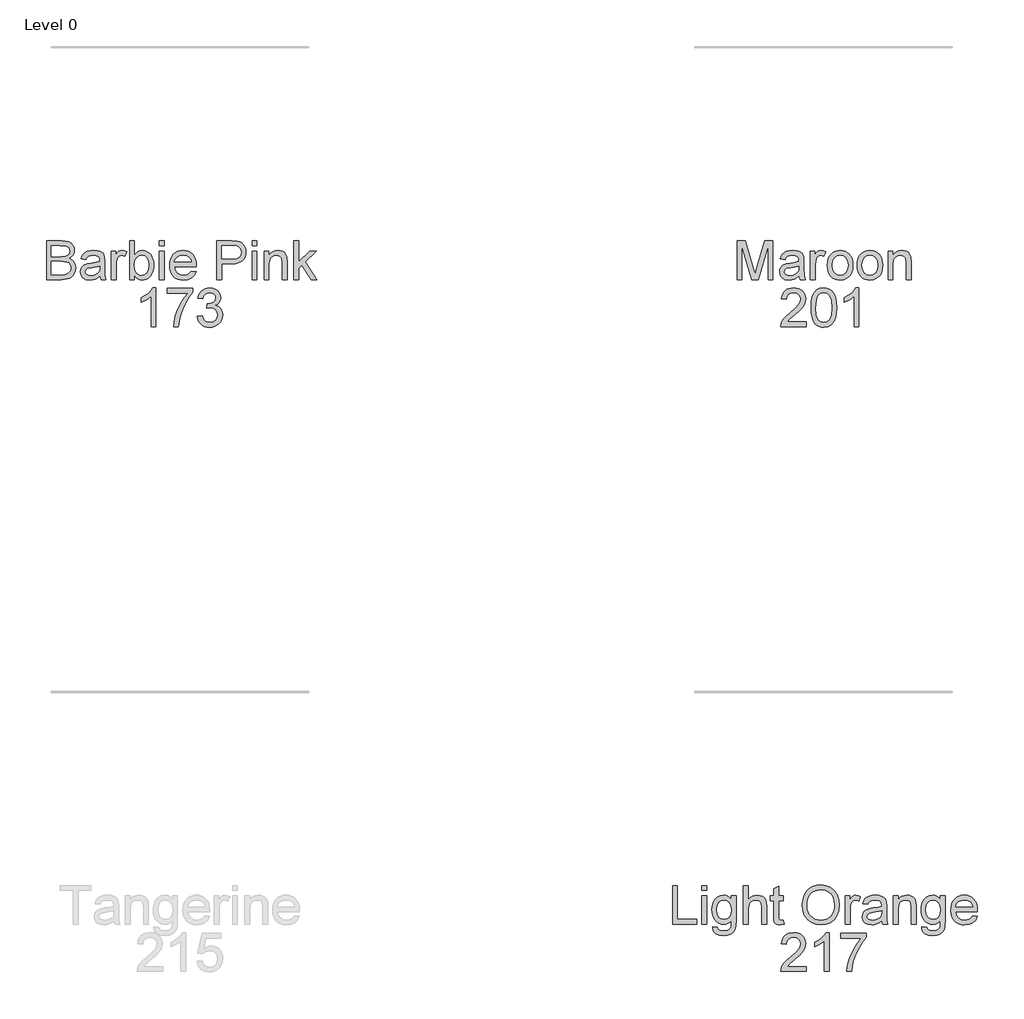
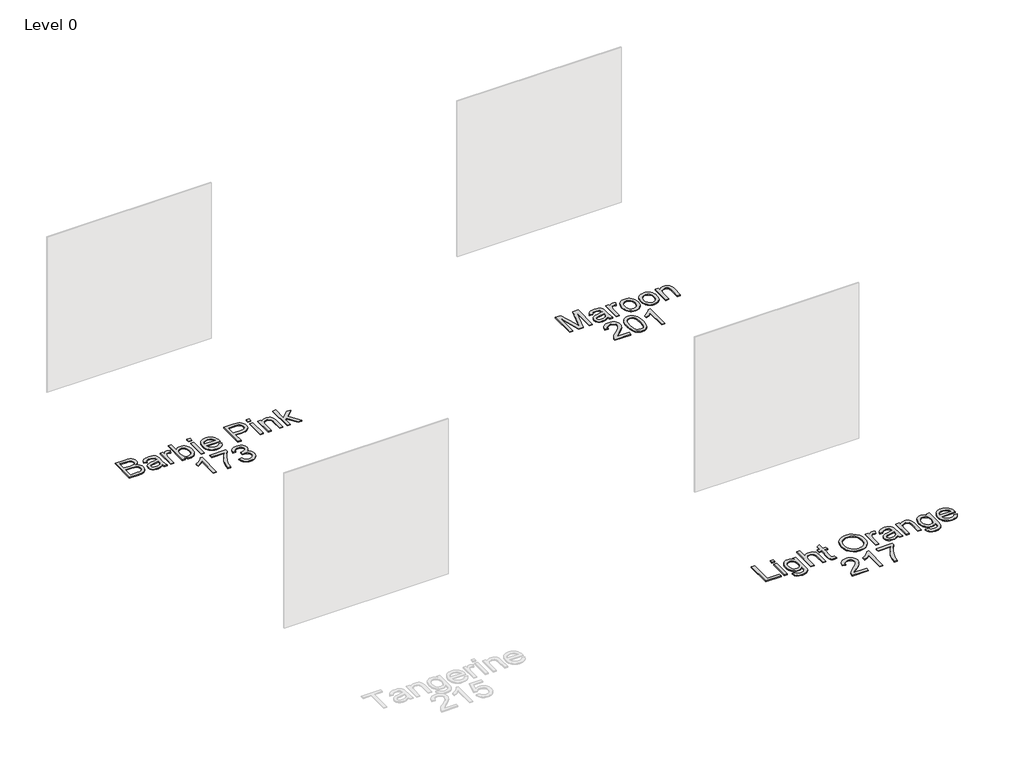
# One storey, part 11 of 15: 3 proxies.
"""IFC4 building model written with IfcOpenShell, lengths in millimetres."""

from ifc_helpers import new_model, si_unit, origin, origin_with_axes, place, context, project, spatial, polyline, outline, extrude, element, save

model = new_model("IFC4")

# Units and contexts
model_context = context("Model", 3, world=origin())
ifc_project = project(units=[si_unit("LENGTHUNIT", "METRE", prefix="MILLI")], contexts=[model_context])

# Site, building, storey
site = spatial("IfcSite", under=ifc_project)
building = spatial("IfcBuilding", under=site)
storey = spatial("IfcBuildingStorey", under=building, Name="Level 0", Elevation=0.0)

# Proxies
placement = place(None, origin())
element("IfcBuildingElementProxy", 1, Name="300mm Arial", ObjectType="300mm Arial", at=placement, inside=storey, context=model_context, shape_type="SweptSolid", body=[
    extrude(outline(polyline([(-486.6137547, -17002.860494), (-486.6137547, -16701.4915635), (-371.613843, -16701.4915635), (-339.9851885, -16703.7080526), (-315.2911096, -16710.3575196), (-296.3635809, -16721.6055116), (-282.0345772, -16737.6175755), (-273.0122713, -16756.4531336), (-270.004836, -16776.1716086), (-272.5340247, -16794.317388), (-280.1215908, -16811.3779155), (-292.8227167, -16826.3047274), (-310.6925846, -16838.0493601), (-289.3462319, -16849.1961846), (-273.5732913, -16866.1555446), (-263.8336155, -16887.8054), (-260.5870569, -16913.0237108), (-262.8035459, -16934.0389697), (-269.453013, -16953.5275184), (-279.3766298, -16970.1006023), (-291.4155681, -16982.3694669), (-306.158439, -16991.253817), (-324.1938539, -16997.6733578), (-372.4967598, -17002.860494), (-486.6137547, -17002.860494)]), holes=[polyline([(-448.9426384, -16823.9226915), (-380.1487053, -16823.9226915), (-339.9759914, -16820.68533), (-325.9137022, -16815.1027207), (-315.8061444, -16806.7426024), (-309.7085003, -16795.7337336), (-307.6759523, -16782.2048733), (-309.5705445, -16769.071486), (-315.2543214, -16757.630356), (-324.4697654, -16748.7000206), (-336.9593591, -16743.0990172), (-385.3726297, -16739.1626798), (-448.9426384, -16739.1626798), (-448.9426384, -16823.9226915)]), polyline([(-448.9426384, -16965.1893777), (-371.6874194, -16965.1893777), (-343.7283878, -16963.7178497), (-320.0735755, -16955.5140812), (-304.4018025, -16938.7754504), (-299.7940805, -16926.9480443), (-298.2581732, -16913.3915928), (-300.060795, -16897.6462434), (-305.4686603, -16884.1081859), (-314.9140305, -16873.5223815), (-328.829167, -16866.6337912), (-348.5384449, -16862.8538037), (-375.3662394, -16861.5938078), (-448.9426384, -16861.5938078), (-448.9426384, -16965.1893777)])]), origin_with_axes(), (0.0, 0.0, 1.0), 10.0),
    extrude(outline(polyline([(-72.2314754, -16974.6071568), (-90.230102, -16990.0398064), (-108.7621575, -17000.1381672), (-128.2507062, -17005.7115794), (-149.1188124, -17007.5693835), (-180.6003141, -17003.0996173), (-203.822865, -16989.6903186), (-218.1426717, -16969.3280501), (-222.9159406, -16943.9993748), (-221.1133188, -16928.3827841), (-215.7054535, -16914.2009331), (-207.3637292, -16902.0608273), (-196.7595307, -16892.5694718), (-170.3823917, -16880.2086368), (-137.7880469, -16874.5432541), (-99.270802, -16868.5835657), (-72.4522046, -16861.5938078), (-72.2314754, -16853.2060983), (-74.8250434, -16836.3938912), (-82.6057476, -16825.3942195), (-100.006566, -16817.2272392), (-124.2499895, -16814.5049125), (-146.6907912, -16816.3167313), (-162.3625642, -16821.7521878), (-173.0495361, -16831.8045633), (-180.5359347, -16847.4671392), (-218.207051, -16842.7582497), (-211.6679486, -16822.156858), (-201.9098787, -16805.9700502), (-188.0223333, -16793.590821), (-169.0948047, -16784.4121652), (-145.9458301, -16778.7283884), (-119.3939471, -16776.8337961), (-93.927316, -16778.5076592), (-73.7397915, -16783.5292485), (-58.518674, -16791.0800264), (-47.9512637, -16800.3414556), (-40.9431117, -16811.7917827), (-36.399769, -16825.9092543), (-34.5603591, -16858.8714811), (-34.5603591, -16905.7396473), (-32.6473727, -16971.1858542), (-25.14258, -17002.860494), (-62.8136963, -17002.860494), (-72.2314754, -16974.6071568)]), holes=[polyline([(-72.2314754, -16899.2649241), (-133.005581, -16910.8164188), (-165.4159847, -16916.9232599), (-180.0944763, -16926.8560738), (-185.2448243, -16941.3506244), (-182.4397241, -16952.5526311), (-174.0244234, -16961.7312869), (-160.1828634, -16967.8565221), (-141.0989849, -16969.8982672), (-120.8654751, -16967.64499), (-102.9864102, -16960.8851583), (-88.4918595, -16950.9247533), (-78.4118929, -16939.069756), (-73.9421266, -16926.8560738), (-72.4522046, -16909.933502), (-72.2314754, -16899.2649241)])]), origin_with_axes(), (0.0, 0.0, 1.0), 10.0),
    extrude(outline(polyline([(17.2374259, -17002.860494), (17.2374259, -16781.5426857), (50.1996526, -16781.5426857), (50.1996526, -16814.2841833), (62.3765467, -16795.3014723), (73.5969475, -16784.1178596), (84.8541366, -16778.654812), (97.1413952, -16776.8337961), (115.903377, -16779.7400639), (134.9596643, -16788.4588672), (122.3781001, -16822.2304343), (109.1343483, -16816.4362929), (95.8905964, -16814.5049125), (84.6426044, -16816.3627165), (74.5902289, -16821.9361288), (66.4692339, -16830.8020848), (61.0153833, -16842.5375205), (56.4352525, -16863.5803706), (54.9085422, -16886.5362071), (54.9085422, -17002.860494), (17.2374259, -17002.860494)])), origin_with_axes(), (0.0, 0.0, 1.0), 10.0),
    extrude(outline(polyline([(196.1752283, -17002.860494), (158.504112, -17002.860494), (158.504112, -16701.4915635), (196.1752283, -16701.4915635), (196.1752283, -16813.2541137), (208.5636545, -16797.3202248), (222.5523674, -16785.9388755), (238.1413669, -16779.110066), (255.3306531, -16776.8337961), (274.7364284, -16778.8847383), (293.0753459, -16785.0375646), (309.2989418, -16794.9059992), (322.3587527, -16808.1037657), (332.5950692, -16824.5021057), (340.3481822, -16843.9722603), (345.2318157, -16865.7048891), (346.8596935, -16888.8906519), (345.1743342, -16915.64487), (340.118256, -16939.1801206), (331.691459, -16959.4964038), (319.8939433, -16976.5937195), (305.7327857, -16990.1455725), (290.2150633, -16999.8254675), (273.3407761, -17005.6334045), (255.109924, -17007.5693835), (237.3550192, -17005.0723845), (221.6142683, -16997.5813874), (207.8876713, -16985.0963921), (196.1752283, -16967.6173988), (196.1752283, -17002.860494)]), holes=[polyline([(196.1752283, -16890.6564855), (198.7504023, -16922.0736078), (206.4759242, -16943.3371872), (215.6039962, -16954.9576597), (226.2127932, -16963.2579972), (238.3023153, -16968.2381997), (251.8725624, -16969.8982672), (273.6143883, -16965.0054367), (292.1924291, -16950.3269451), (304.9395402, -16925.9547629), (309.1885772, -16891.9808606), (305.1142841, -16857.5103177), (292.8914049, -16833.414047), (274.8927782, -16819.2321961), (253.4912432, -16814.5049125), (231.7494173, -16819.397743), (213.1713765, -16834.0762346), (200.4242654, -16858.0069584), (196.1752283, -16890.6564855)])]), origin_with_axes(), (0.0, 0.0, 1.0), 10.0),
    extrude(outline(polyline([(389.2396994, -16739.1626798), (389.2396994, -16701.4915635), (426.9108157, -16701.4915635), (426.9108157, -16739.1626798), (389.2396994, -16739.1626798)])), origin_with_axes(), (0.0, 0.0, 1.0), 10.0),
    extrude(outline(polyline([(389.2396994, -17002.860494), (389.2396994, -16781.5426857), (426.9108157, -16781.5426857), (426.9108157, -17002.860494), (389.2396994, -17002.860494)])), origin_with_axes(), (0.0, 0.0, 1.0), 10.0),
    extrude(outline(polyline([(638.3693865, -16936.9360404), (675.3047388, -16941.64493), (661.9966077, -16969.4752029), (640.7606195, -16990.2789297), (612.0750209, -17003.2467701), (576.4180585, -17007.5693835), (553.0437563, -17005.7046817), (532.2170368, -17000.1105761), (513.9379002, -16990.7870668), (498.2063464, -16977.7341537), (485.5558043, -16961.3151204), (476.5197027, -16941.8932503), (471.0980418, -16919.4685435), (469.2908215, -16894.0409998), (471.1164359, -16867.7512327), (476.5932791, -16844.5792656), (485.7213512, -16824.5250983), (498.500652, -16807.5887309), (514.1908191, -16794.133447), (532.0514899, -16784.5225298), (552.0826646, -16778.7559796), (574.284343, -16776.8337961), (595.7709507, -16778.751381), (615.2020179, -16784.5041357), (632.5775444, -16794.0920602), (647.8975302, -16807.5151545), (660.4032188, -16824.4147337), (669.3358535, -16844.4321128), (674.6954343, -16867.5672917), (676.4819612, -16893.8202706), (676.261232, -16903.9738137), (506.9619378, -16903.9738137), (513.4826462, -16932.1719686), (528.6301874, -16952.902119), (550.4915749, -16965.6492302), (577.1538225, -16969.8982672), (597.2033913, -16967.9300985), (614.0891748, -16962.0255925), (627.8111733, -16951.8168672), (638.3693865, -16936.9360404)]), holes=[polyline([(506.9619378, -16866.3026974), (638.8108449, -16866.3026974), (633.7156793, -16846.4002814), (623.7276831, -16832.1632482), (601.765128, -16818.9194964), (574.1371902, -16814.5049125), (548.7441355, -16818.0273826), (527.7472706, -16828.5947929), (513.1515524, -16845.0667092), (506.9619378, -16866.3026974)])]), origin_with_axes(), (0.0, 0.0, 1.0), 10.0),
    extrude(outline(polyline([(836.5842055, -17002.860494), (836.5842055, -16701.4915635), (948.2731793, -16701.4915635), (993.3019355, -16704.3610431), (1013.3790954, -16709.7229232), (1029.906194, -16718.4509235), (1043.2143252, -16730.9405172), (1053.6345827, -16747.5871775), (1060.3668232, -16767.222879), (1062.6109034, -16788.6795964), (1061.0956894, -16807.1794622), (1056.5500475, -16824.198603), (1048.9739777, -16839.7370188), (1038.3674799, -16853.7947095), (1023.8062507, -16865.4473717), (1004.3659865, -16873.7707019), (980.0466873, -16878.7647), (950.8483532, -16880.429366), (874.2553218, -16880.429366), (874.2553218, -17002.860494), (836.5842055, -17002.860494)]), holes=[polyline([(874.2553218, -16842.7582497), (953.0556452, -16842.7582497), (986.4593304, -16839.3001589), (1008.5322501, -16828.9258867), (1020.8379028, -16812.2792264), (1024.9397871, -16790.0039716), (1022.5209629, -16773.0813998), (1015.2644906, -16758.8075784), (1004.0716809, -16748.0654241), (989.8438447, -16741.7378538), (952.1727284, -16739.1626798), (874.2553218, -16739.1626798), (874.2553218, -16842.7582497)])]), origin_with_axes(), (0.0, 0.0, 1.0), 10.0),
    extrude(outline(polyline([(1109.6997987, -16739.1626798), (1109.6997987, -16701.4915635), (1147.3709151, -16701.4915635), (1147.3709151, -16739.1626798), (1109.6997987, -16739.1626798)])), origin_with_axes(), (0.0, 0.0, 1.0), 10.0),
    extrude(outline(polyline([(1109.6997987, -17002.860494), (1109.6997987, -16781.5426857), (1147.3709151, -16781.5426857), (1147.3709151, -17002.860494), (1109.6997987, -17002.860494)])), origin_with_axes(), (0.0, 0.0, 1.0), 10.0),
    extrude(outline(polyline([(1203.8775895, -17002.860494), (1203.8775895, -16781.5426857), (1241.5487058, -16781.5426857), (1241.5487058, -16812.4447733), (1254.6361078, -16796.8649708), (1270.353866, -16785.7365404), (1288.7019805, -16779.0594822), (1309.6804513, -16776.8337961), (1328.249295, -16778.6272209), (1345.2546403, -16784.0074951), (1359.4364912, -16792.303234), (1369.5348519, -16802.8430532), (1380.8288292, -16830.5445674), (1382.815392, -16866.964885), (1382.815392, -17002.860494), (1345.1442757, -17002.860494), (1345.1442757, -16872.0416565), (1340.8032681, -16838.7115477), (1334.7975945, -16828.7879309), (1325.4625889, -16821.0900002), (1313.497227, -16816.1511844), (1299.6004847, -16814.5049125), (1277.536762, -16818.2021265), (1258.728795, -16829.2937687), (1251.212506, -16838.3482643), (1245.8437281, -16850.7228949), (1241.5487058, -16885.4325611), (1241.5487058, -17002.860494), (1203.8775895, -17002.860494)])), origin_with_axes(), (0.0, 0.0, 1.0), 10.0),
    extrude(outline(polyline([(1434.6131769, -17002.860494), (1434.6131769, -16701.4915635), (1472.2842932, -16701.4915635), (1472.2842932, -16863.4332178), (1556.7499993, -16781.5426857), (1608.8420898, -16781.5426857), (1523.3463141, -16864.4632874), (1613.5509793, -17002.860494), (1569.5522927, -17002.860494), (1496.3437757, -16890.6564855), (1472.2842932, -16913.9802039), (1472.2842932, -17002.860494), (1434.6131769, -17002.860494)])), origin_with_axes(), (0.0, 0.0, 1.0), 10.0),
    extrude(outline(polyline([(363.3408069, -17368.7849475), (325.6696906, -17368.7849475), (325.6696906, -17133.9290818), (289.9851371, -17159.3497277), (250.327458, -17178.3692268), (250.327458, -17142.7582497), (279.9143675, -17126.6634124), (305.5465455, -17107.5151545), (325.7524641, -17087.1528861), (339.0605952, -17067.4160171), (363.3408069, -17067.4160171), (363.3408069, -17368.7849475)])), origin_with_axes(), (0.0, 0.0, 1.0), 10.0),
    extrude(outline(polyline([(452.8097082, -17109.7960229), (452.8097082, -17072.1249066), (650.5830688, -17072.1249066), (650.5830688, -17102.5855358), (622.3941109, -17138.2608923), (594.4810645, -17183.6299393), (569.860562, -17234.5540045), (551.5492357, -17286.8944154), (542.572915, -17326.0554538), (537.5697198, -17368.7849475), (499.8986035, -17368.7849475), (503.9728966, -17329.9550029), (514.8714007, -17283.8042066), (532.2998103, -17234.8850983), (555.9638196, -17187.7502177), (583.5917574, -17145.1402856), (612.9119525, -17109.7960229), (452.8097082, -17109.7960229)])), origin_with_axes(), (0.0, 0.0, 1.0), 10.0),
    extrude(outline(polyline([(683.5452955, -17288.7338254), (721.2164118, -17284.0249358), (729.6501066, -17307.6981422), (742.0017446, -17323.6826149), (758.8783311, -17332.7876943), (780.8868715, -17335.8227207), (806.7121875, -17331.6472601), (826.6513917, -17319.1208782), (839.3985028, -17300.4324728), (843.6475398, -17277.7709419), (839.435291, -17256.2590422), (826.7985445, -17238.8122386), (807.6686807, -17227.2515469), (783.9770802, -17223.397983), (757.563153, -17227.5182614), (761.7570077, -17189.8471451), (767.7902724, -17190.2886035), (790.3598328, -17187.5846708), (810.5381603, -17179.4728728), (824.7751935, -17165.7508744), (829.5208712, -17146.2163404), (826.0811746, -17129.9467592), (815.7620846, -17116.7489926), (800.0167352, -17108.0025982), (780.2982603, -17105.0871334), (760.5429971, -17108.0301893), (744.3929775, -17116.8593572), (732.6023596, -17131.574637), (725.9253014, -17152.1760288), (688.2541851, -17147.4671392), (699.3458272, -17113.6403898), (719.0826963, -17088.3852908), (746.0852347, -17072.6583355), (778.9738851, -17067.4160171), (802.6562885, -17070.0003881), (824.4073115, -17077.7535011), (842.7462289, -17089.9855775), (856.1923159, -17106.0068384), (864.4420696, -17124.4653175), (867.1919875, -17144.0090485), (864.5800254, -17162.2192072), (856.7441389, -17178.7371088), (843.7946926, -17192.8085951), (825.8420513, -17203.6795081), (849.4232872, -17213.2076518), (866.8976819, -17229.4312477), (877.7134126, -17251.4673793), (881.3186561, -17278.4331295), (879.5160344, -17297.5445992), (874.108169, -17315.1477526), (865.0950602, -17331.2425899), (852.4767077, -17345.829111), (837.1038388, -17357.9324287), (819.8271806, -17366.5776555), (800.6467331, -17371.7647917), (779.5624963, -17373.4938371), (760.5062089, -17372.0177105), (743.1421788, -17367.589331), (727.4704058, -17360.2086985), (713.4908899, -17349.875813), (701.7692499, -17337.1976797), (692.8711041, -17322.781304), (686.7964527, -17306.6266859), (683.5452955, -17288.7338254)])), origin_with_axes(), (0.0, 0.0, 1.0), 10.0),
])
element("IfcBuildingElementProxy", 2, Name="300mm Arial", ObjectType="300mm Arial", at=placement, inside=storey, context=model_context, shape_type="SweptSolid", body=[
    extrude(outline(polyline([(4878.3251845, -17002.860494), (4878.3251845, -16701.4915635), (4943.145992, -16701.4915635), (5004.8030144, -16913.9066275), (5017.2374259, -16958.2731962), (5030.7019069, -16910.2278076), (5091.3288597, -16701.4915635), (5156.1496672, -16701.4915635), (5156.1496672, -17002.860494), (5118.4785509, -17002.860494), (5118.4785509, -16739.1626798), (5042.7684363, -17002.860494), (4991.7064154, -17002.860494), (4915.9963008, -16739.1626798), (4915.9963008, -17002.860494), (4878.3251845, -17002.860494)])), origin_with_axes(), (0.0, 0.0, 1.0), 10.0),
    extrude(outline(polyline([(5358.6319174, -16974.6071568), (5340.6332908, -16990.0398064), (5322.1012353, -17000.1381672), (5302.6126866, -17005.7115794), (5281.7445804, -17007.5693835), (5250.2630787, -17003.0996173), (5227.0405277, -16989.6903186), (5212.7207211, -16969.3280501), (5207.9474522, -16943.9993748), (5209.7500739, -16928.3827841), (5215.1579393, -16914.2009331), (5223.4996635, -16902.0608273), (5234.103862, -16892.5694718), (5260.4810011, -16880.2086368), (5293.0753459, -16874.5432541), (5331.5925907, -16868.5835657), (5358.4111882, -16861.5938078), (5358.6319174, -16853.2060983), (5356.0383493, -16836.3938912), (5348.2576451, -16825.3942195), (5330.8568268, -16817.2272392), (5306.6134033, -16814.5049125), (5284.1726016, -16816.3167313), (5268.5008286, -16821.7521878), (5257.8138566, -16831.8045633), (5250.327458, -16847.4671392), (5212.6563417, -16842.7582497), (5219.1954442, -16822.156858), (5228.9535141, -16805.9700502), (5242.8410594, -16793.590821), (5261.7685881, -16784.4121652), (5284.9175626, -16778.7283884), (5311.4694456, -16776.8337961), (5336.9360767, -16778.5076592), (5357.1236012, -16783.5292485), (5372.3447188, -16791.0800264), (5382.9121291, -16800.3414556), (5389.9202811, -16811.7917827), (5394.4636237, -16825.9092543), (5396.3030337, -16858.8714811), (5396.3030337, -16905.7396473), (5398.2160201, -16971.1858542), (5405.7208128, -17002.860494), (5368.0496965, -17002.860494), (5358.6319174, -16974.6071568)]), holes=[polyline([(5358.6319174, -16899.2649241), (5297.8578118, -16910.8164188), (5265.447408, -16916.9232599), (5250.7689164, -16926.8560738), (5245.6185685, -16941.3506244), (5248.4236687, -16952.5526311), (5256.8389693, -16961.7312869), (5270.6805294, -16967.8565221), (5289.7644079, -16969.8982672), (5309.9979176, -16967.64499), (5327.8769826, -16960.8851583), (5342.3715332, -16950.9247533), (5352.4514999, -16939.069756), (5356.9212661, -16926.8560738), (5358.4111882, -16909.933502), (5358.6319174, -16899.2649241)])]), origin_with_axes(), (0.0, 0.0, 1.0), 10.0),
    extrude(outline(polyline([(5448.1008186, -17002.860494), (5448.1008186, -16781.5426857), (5481.0630454, -16781.5426857), (5481.0630454, -16814.2841833), (5493.2399394, -16795.3014723), (5504.4603403, -16784.1178596), (5515.7175293, -16778.654812), (5528.004788, -16776.8337961), (5546.7667697, -16779.7400639), (5565.8230571, -16788.4588672), (5553.2414928, -16822.2304343), (5539.997741, -16816.4362929), (5526.7539892, -16814.5049125), (5515.5059972, -16816.3627165), (5505.4536217, -16821.9361288), (5497.3326266, -16830.8020848), (5491.878776, -16842.5375205), (5487.2986452, -16863.5803706), (5485.7719349, -16886.5362071), (5485.7719349, -17002.860494), (5448.1008186, -17002.860494)])), origin_with_axes(), (0.0, 0.0, 1.0), 10.0),
    extrude(outline(polyline([(5579.9497257, -16892.2015898), (5581.9868722, -16863.5389839), (5588.0983119, -16838.8403064), (5598.2840446, -16818.1055575), (5612.5440705, -16801.334737), (5626.9006653, -16790.6155754), (5642.7471823, -16782.9590314), (5660.0836213, -16778.3651049), (5678.9099824, -16776.8337961), (5699.6930159, -16778.698498), (5718.484888, -16784.2926036), (5735.2855989, -16793.6161129), (5750.0951485, -16806.669026), (5762.1823713, -16823.0098843), (5770.8161018, -16842.1972296), (5775.9963402, -16864.2310619), (5777.7230863, -16889.1113811), (5774.6696657, -16927.1687735), (5765.5094041, -16956.1394806), (5750.5090157, -16977.8353213), (5729.9352151, -16994.0681143), (5705.4986536, -17004.1940662), (5678.9099824, -17007.5693835), (5657.8234463, -17005.7115794), (5638.8568302, -17000.1381672), (5622.0101341, -16990.8491468), (5607.2833579, -16977.8445183), (5595.3248938, -16961.3450108), (5586.7831338, -16941.5713536), (5581.6580777, -16918.5235466), (5579.9497257, -16892.2015898)]), holes=[polyline([(5617.620842, -16892.1280134), (5621.9802436, -16926.2214773), (5635.0584486, -16950.5108861), (5654.7401353, -16965.0514219), (5678.9099824, -16969.8982672), (5702.9694649, -16965.0238308), (5722.6143634, -16950.4005215), (5735.6925683, -16925.789216), (5740.05197, -16890.950791), (5735.6649772, -16857.8506085), (5722.5039988, -16833.8922936), (5702.8315091, -16819.3517577), (5678.9099824, -16814.5049125), (5654.7401353, -16819.3333636), (5635.0584486, -16833.8187172), (5621.9802436, -16858.0529436), (5617.620842, -16892.1280134)])]), origin_with_axes(), (0.0, 0.0, 1.0), 10.0),
    extrude(outline(polyline([(5810.6853131, -16892.2015898), (5812.7224596, -16863.5389839), (5818.8338993, -16838.8403064), (5829.019632, -16818.1055575), (5843.2796578, -16801.334737), (5857.6362527, -16790.6155754), (5873.4827696, -16782.9590314), (5890.8192087, -16778.3651049), (5909.6455698, -16776.8337961), (5930.4286032, -16778.698498), (5949.2204754, -16784.2926036), (5966.0211863, -16793.6161129), (5980.8307358, -16806.669026), (5992.9179586, -16823.0098843), (6001.5516892, -16842.1972296), (6006.7319276, -16864.2310619), (6008.4586737, -16889.1113811), (6005.4052531, -16927.1687735), (5996.2449914, -16956.1394806), (5981.2446031, -16977.8353213), (5960.6708025, -16994.0681143), (5936.234241, -17004.1940662), (5909.6455698, -17007.5693835), (5888.5590337, -17005.7115794), (5869.5924175, -17000.1381672), (5852.7457214, -16990.8491468), (5838.0189453, -16977.8445183), (5826.0604812, -16961.3450108), (5817.5187211, -16941.5713536), (5812.3936651, -16918.5235466), (5810.6853131, -16892.2015898)]), holes=[polyline([(5848.3564294, -16892.1280134), (5852.715831, -16926.2214773), (5865.7940359, -16950.5108861), (5885.4757227, -16965.0514219), (5909.6455698, -16969.8982672), (5933.7050523, -16965.0238308), (5953.3499508, -16950.4005215), (5966.4281557, -16925.789216), (5970.7875574, -16890.950791), (5966.4005646, -16857.8506085), (5953.2395862, -16833.8922936), (5933.5670965, -16819.3517577), (5909.6455698, -16814.5049125), (5885.4757227, -16819.3333636), (5865.7940359, -16833.8187172), (5852.715831, -16858.0529436), (5848.3564294, -16892.1280134)])]), origin_with_axes(), (0.0, 0.0, 1.0), 10.0),
    extrude(outline(polyline([(6050.8386795, -17002.860494), (6050.8386795, -16781.5426857), (6088.5097958, -16781.5426857), (6088.5097958, -16812.4447733), (6101.5971978, -16796.8649708), (6117.314956, -16785.7365404), (6135.6630706, -16779.0594822), (6156.6415413, -16776.8337961), (6175.210385, -16778.6272209), (6192.2157303, -16784.0074951), (6206.3975812, -16792.303234), (6216.4959419, -16802.8430532), (6227.7899192, -16830.5445674), (6229.776482, -16866.964885), (6229.776482, -17002.860494), (6192.1053657, -17002.860494), (6192.1053657, -16872.0416565), (6187.7643581, -16838.7115477), (6181.7586846, -16828.7879309), (6172.4236789, -16821.0900002), (6160.458317, -16816.1511844), (6146.5615747, -16814.5049125), (6124.497852, -16818.2021265), (6105.689885, -16829.2937687), (6098.173596, -16838.3482643), (6092.8048181, -16850.7228949), (6088.5097958, -16885.4325611), (6088.5097958, -17002.860494), (6050.8386795, -17002.860494)])), origin_with_axes(), (0.0, 0.0, 1.0), 10.0),
    extrude(outline(polyline([(5415.1385919, -17331.1138312), (5415.1385919, -17368.7849475), (5217.3652312, -17368.7849475), (5221.4119332, -17342.8124787), (5230.7009536, -17322.5145896), (5244.2941933, -17302.8237058), (5263.9574859, -17282.213117), (5291.4566651, -17259.156113), (5332.1076255, -17223.0484951), (5356.4982018, -17196.3954446), (5368.69349, -17174.7639833), (5372.758586, -17153.7211331), (5368.9234162, -17134.8579838), (5357.4179068, -17119.1770138), (5339.7319799, -17108.6096035), (5317.3555575, -17105.0871334), (5293.8570951, -17108.52683), (5275.6009511, -17118.84592), (5263.8195302, -17135.2350629), (5259.7452371, -17156.8849183), (5222.0741208, -17152.1760288), (5231.2067913, -17115.7373171), (5239.7531499, -17101.2013798), (5250.9528574, -17089.1210548), (5264.5483964, -17079.6251008), (5280.2822495, -17072.8422765), (5318.1648979, -17067.4160171), (5338.3547217, -17068.9243332), (5356.3234579, -17073.4492818), (5372.0711065, -17080.9908627), (5385.5976676, -17091.549076), (5396.4616828, -17104.3421723), (5404.2216936, -17118.5884026), (5408.8777001, -17134.2877667), (5410.4297023, -17151.4402648), (5408.7558392, -17169.4572855), (5403.73425, -17187.1616065), (5394.8223087, -17205.1694302), (5381.4773893, -17224.0969588), (5360.2046129, -17246.6941104), (5327.5091006, -17275.7108027), (5284.1726016, -17311.9471793), (5267.1764534, -17331.1138312), (5415.1385919, -17331.1138312)])), origin_with_axes(), (0.0, 0.0, 1.0), 10.0),
    extrude(outline(polyline([(5452.8097082, -17220.5285035), (5455.5780202, -17172.2899768), (5463.8829562, -17133.8187172), (5477.6417428, -17104.5261133), (5496.7716066, -17083.8235541), (5521.4105032, -17071.5179013), (5551.6963885, -17067.4160171), (5574.9097424, -17069.8440382), (5595.6950751, -17077.1281017), (5613.0774994, -17088.983099), (5626.0821279, -17105.1239216), (5635.9045772, -17125.4126136), (5643.7404637, -17149.7112194), (5648.8724175, -17180.5673217), (5650.5830688, -17220.5285035), (5647.8423479, -17268.4911186), (5639.6201853, -17306.8704077), (5625.9441721, -17336.1906027), (5606.8418995, -17356.9759355), (5582.1478206, -17369.3643617), (5551.6963885, -17373.4938371), (5530.9478439, -17371.7004123), (5512.5537442, -17366.3201381), (5496.5140892, -17357.3530145), (5482.828879, -17344.7990414), (5469.6954917, -17322.1053209), (5460.3145009, -17293.828991), (5454.6859063, -17259.9700519), (5452.8097082, -17220.5285035)]), holes=[polyline([(5490.4808245, -17220.4549271), (5494.8954084, -17279.7115194), (5500.4136383, -17299.9795181), (5508.1391602, -17314.0073184), (5527.8576352, -17330.3688702), (5551.6963885, -17335.8227207), (5575.5351417, -17330.3504761), (5595.2536167, -17313.933742), (5602.9791386, -17299.8829491), (5608.4973685, -17279.6195489), (5612.9119525, -17220.4549271), (5608.6445213, -17162.5319069), (5603.3102324, -17142.3305869), (5595.8422279, -17127.9693935), (5576.1605411, -17110.8076984), (5551.2549301, -17105.0871334), (5527.6736942, -17110.1271167), (5508.7277714, -17125.2470667), (5500.7447321, -17140.8820515), (5495.0425612, -17161.9616898), (5490.4808245, -17220.4549271)])]), origin_with_axes(), (0.0, 0.0, 1.0), 10.0),
    extrude(outline(polyline([(5824.8119817, -17368.7849475), (5787.1408654, -17368.7849475), (5787.1408654, -17133.9290818), (5751.4563118, -17159.3497277), (5711.7986328, -17178.3692268), (5711.7986328, -17142.7582497), (5741.3855422, -17126.6634124), (5767.0177202, -17107.5151545), (5787.2236388, -17087.1528861), (5800.53177, -17067.4160171), (5824.8119817, -17067.4160171), (5824.8119817, -17368.7849475)])), origin_with_axes(), (0.0, 0.0, 1.0), 10.0),
])
element("IfcBuildingElementProxy", 3, Name="300mm Arial", ObjectType="300mm Arial", at=placement, inside=storey, context=model_context, shape_type="SweptSolid", body=[
    extrude(outline(polyline([(4376.8284487, -22011.9454346), (4376.8284487, -21710.5765041), (4414.499565, -21710.5765041), (4414.499565, -21974.2743182), (4565.1840302, -21974.2743182), (4565.1840302, -22011.9454346), (4376.8284487, -22011.9454346)])), origin_with_axes(), (0.0, 0.0, 1.0), 10.0),
    extrude(outline(polyline([(4602.8551465, -22011.9454346), (4602.8551465, -21790.6276263), (4640.5262628, -21790.6276263), (4640.5262628, -22011.9454346), (4602.8551465, -22011.9454346)])), origin_with_axes(), (0.0, 0.0, 1.0), 10.0),
    extrude(outline(polyline([(4602.8551465, -21748.2476204), (4602.8551465, -21710.5765041), (4640.5262628, -21710.5765041), (4640.5262628, -21748.2476204), (4602.8551465, -21748.2476204)])), origin_with_axes(), (0.0, 0.0, 1.0), 10.0),
    extrude(outline(polyline([(4687.6151582, -22030.7809927), (4725.2862745, -22035.4898822), (4729.443341, -22047.2621061), (4737.4999567, -22055.35551), (4753.3372766, -22061.6462921), (4774.0674271, -22063.7432195), (4796.177135, -22061.3703806), (4812.6214602, -22054.251864), (4824.025802, -22042.8475221), (4831.0155599, -22027.6172075), (4833.5907339, -21983.6920973), (4821.0551549, -21996.0529324), (4807.066442, -22004.8821002), (4791.6245953, -22010.179601), (4774.7296146, -22011.9454346), (4754.0753399, -22009.8898939), (4735.890473, -22003.723272), (4720.175014, -21993.4455687), (4706.9289629, -21979.0567842), (4696.4190342, -21961.7939216), (4688.9119422, -21942.8939841), (4684.407687, -21922.3569717), (4682.9062687, -21900.1828844), (4685.6010043, -21869.7682405), (4693.6852111, -21841.8000118), (4706.8737806, -21818.0992142), (4724.8816043, -21800.4868637), (4747.0924798, -21789.5607685), (4772.8902047, -21785.9187367), (4790.5071537, -21787.9788759), (4806.4962249, -21794.1592934), (4820.8574183, -21804.4599893), (4833.5907339, -21818.8809635), (4833.5907339, -21790.6276263), (4871.2618502, -21790.6276263), (4871.2618502, -21981.7055345), (4868.6866762, -22025.8237828), (4860.9611543, -22054.8772634), (4847.6530231, -22074.1450829), (4828.3300213, -22088.9063479), (4803.4152132, -22098.2873388), (4773.3316631, -22101.4143358), (4738.281706, -22097.0089489), (4710.6813593, -22083.7927882), (4700.2863937, -22073.8714707), (4692.9770383, -22061.7290655), (4688.7532931, -22047.3655729), (4687.6151582, -22030.7809927)]), holes=[polyline([(4720.577385, -21897.6077105), (4724.5964958, -21932.1610268), (4736.6538281, -21955.9170067), (4754.7812135, -21969.6849904), (4777.010483, -21974.2743182), (4799.0742057, -21969.7125815), (4817.2935615, -21956.0273713), (4829.5164408, -21932.5748941), (4833.5907339, -21898.7113564), (4829.3968791, -21866.0526323), (4816.8153149, -21842.5357758), (4798.3292446, -21828.3263337), (4776.4218718, -21823.589853), (4754.9099722, -21828.2527573), (4736.8745573, -21842.2414702), (4724.6516781, -21865.4088388), (4720.577385, -21897.6077105)])]), origin_with_axes(), (0.0, 0.0, 1.0), 10.0),
    extrude(outline(polyline([(4927.7685246, -22011.9454346), (4927.7685246, -21710.5765041), (4965.4396409, -21710.5765041), (4965.4396409, -21821.382561), (4979.2766025, -21805.8671379), (4994.8150183, -21794.7846928), (5012.0548883, -21788.1352257), (5030.9962125, -21785.9187367), (5053.7497139, -21788.3375608), (5073.3026419, -21795.5940332), (5088.6985034, -21807.1179367), (5098.9808052, -21822.3390542), (5104.7749466, -21843.2531457), (5106.7063271, -21871.8559708), (5106.7063271, -22011.9454346), (5069.0352108, -22011.9454346), (5069.0352108, -21875.7555199), (5066.0369725, -21852.174284), (5057.0422577, -21836.0242645), (5042.5477071, -21826.6984559), (5023.0499614, -21823.589853), (5007.1298681, -21825.6867804), (4992.184662, -21831.9775625), (4979.8054329, -21841.8551941), (4971.5832703, -21854.7126698), (4966.9755483, -21871.8007885), (4965.4396409, -21894.3703489), (4965.4396409, -22011.9454346), (4927.7685246, -22011.9454346)])), origin_with_axes(), (0.0, 0.0, 1.0), 10.0),
    extrude(outline(polyline([(5238.5552342, -21980.5283122), (5243.2641237, -22013.0490805), (5215.0843629, -22016.6543241), (5197.0029628, -22015.0908256), (5183.5200877, -22010.4003302), (5173.991944, -22003.171449), (5167.7747383, -21993.9927932), (5164.3534357, -21978.2290497), (5163.2130016, -21951.2449053), (5163.2130016, -21828.2987426), (5134.9596643, -21828.2987426), (5134.9596643, -21790.6276263), (5163.2130016, -21790.6276263), (5163.2130016, -21736.8432786), (5200.8841179, -21714.6967824), (5200.8841179, -21790.6276263), (5238.5552342, -21790.6276263), (5238.5552342, -21828.2987426), (5200.8841179, -21828.2987426), (5200.8841179, -21950.1412594), (5202.8706806, -21969.5654287), (5209.3086156, -21976.444822), (5222.1476972, -21978.9832078), (5238.5552342, -21980.5283122)])), origin_with_axes(), (0.0, 0.0, 1.0), 10.0),
    extrude(outline(polyline([(5384.5308099, -21865.2340949), (5387.0416045, -21829.8852337), (5394.5739883, -21798.5922714), (5407.1279614, -21771.3552082), (5424.7035237, -21748.174044), (5446.2476131, -21729.6649811), (5470.7071672, -21716.4442219), (5498.0821862, -21708.5117664), (5528.37267, -21705.8676146), (5567.9015903, -21710.8340215), (5603.3470206, -21725.7332423), (5632.7775802, -21749.5168133), (5654.2618887, -21781.1362708), (5667.3952759, -21819.0649045), (5671.7730717, -21861.7760041), (5667.1653497, -21905.0573209), (5653.3421837, -21943.5193834), (5631.0669289, -21975.1940232), (5601.1029404, -21998.1130715), (5565.9610128, -22012.019011), (5528.1519408, -22016.6543241), (5488.0160151, -22011.5315673), (5452.3682498, -21996.163297), (5423.0112665, -21971.9382676), (5401.7476872, -21940.2452337), (5388.8350292, -21903.7789309), (5384.5308099, -21865.2340949)]), holes=[polyline([(5422.2019262, -21865.6019769), (5424.0850221, -21890.5765658), (5429.73431, -21912.7460546), (5439.1497898, -21932.1104431), (5452.3314616, -21948.6697314), (5468.3550217, -21961.9318773), (5486.2961668, -21971.4048387), (5506.1548967, -21977.0886155), (5527.9312116, -21978.9832078), (5550.0800069, -21977.0702214), (5570.1732617, -21971.3312623), (5588.2109757, -21961.7663304), (5604.1931492, -21948.3754258), (5617.2782519, -21931.4666496), (5626.6247538, -21911.348103), (5632.232655, -21888.019786), (5634.1019554, -21861.4816985), (5630.901382, -21828.1331957), (5621.2996619, -21799.3096413), (5605.5451155, -21775.7376025), (5583.886063, -21758.1436461), (5557.7572443, -21747.1899597), (5528.5933992, -21743.5387309), (5507.5735417, -21745.2976667), (5488.0711974, -21750.574474), (5470.0863664, -21759.369153), (5453.6190485, -21771.6817035), (5439.8740575, -21788.1053353), (5430.0562068, -21809.2332582), (5424.1654963, -21835.065472), (5422.2019262, -21865.6019769)])]), origin_with_axes(), (0.0, 0.0, 1.0), 10.0),
    extrude(outline(polyline([(5718.8619671, -22011.9454346), (5718.8619671, -21790.6276263), (5751.8241938, -21790.6276263), (5751.8241938, -21823.3691238), (5764.0010879, -21804.3864129), (5775.2214887, -21793.2028002), (5786.4786778, -21787.7397526), (5798.7659364, -21785.9187367), (5817.5279182, -21788.8250045), (5836.5842055, -21797.5438078), (5824.0026413, -21831.3153749), (5810.7588895, -21825.5212335), (5797.5151376, -21823.589853), (5786.2671456, -21825.4476571), (5776.2147701, -21831.0210693), (5768.0937751, -21839.8870254), (5762.6399245, -21851.6224611), (5758.0597937, -21872.6653112), (5756.5330834, -21895.6211477), (5756.5330834, -22011.9454346), (5718.8619671, -22011.9454346)])), origin_with_axes(), (0.0, 0.0, 1.0), 10.0),
    extrude(outline(polyline([(6001.3953394, -21983.6920973), (5983.3967128, -21999.124747), (5964.8646572, -22009.2231078), (5945.3761086, -22014.79652), (5924.5080024, -22016.6543241), (5893.0265006, -22012.1845578), (5869.8039497, -21998.7752591), (5855.484143, -21978.4129907), (5850.7108741, -21953.0843153), (5852.5134959, -21937.4677246), (5857.9213612, -21923.2858737), (5866.2630855, -21911.1457679), (5876.867284, -21901.6544124), (5903.2444231, -21889.2935774), (5935.8387678, -21883.6281946), (5974.3560127, -21877.6685063), (6001.1746102, -21870.6787484), (6001.3953394, -21862.2910389), (5998.8017713, -21845.4788317), (5991.0210671, -21834.4791601), (5973.6202487, -21826.3121798), (5949.3768252, -21823.589853), (5926.9360235, -21825.4016718), (5911.2642505, -21830.8371283), (5900.5772786, -21840.8895038), (5893.09088, -21856.5520798), (5855.4197637, -21851.8431903), (5861.9588661, -21831.2417985), (5871.7169361, -21815.0549907), (5885.6044814, -21802.6757616), (5904.53201, -21793.4971058), (5927.6809846, -21787.813329), (5954.2328676, -21785.9187367), (5979.6994987, -21787.5925998), (5999.8870232, -21792.614189), (6015.1081407, -21800.164967), (6025.675551, -21809.4263962), (6032.6837031, -21820.8767233), (6037.2270457, -21834.9941949), (6039.0664557, -21867.9564216), (6039.0664557, -21914.8245878), (6040.979442, -21980.2707948), (6048.4842347, -22011.9454346), (6010.8131184, -22011.9454346), (6001.3953394, -21983.6920973)]), holes=[polyline([(6001.3953394, -21908.3498647), (5940.6212338, -21919.9013594), (5908.21083, -21926.0082005), (5893.5323384, -21935.9410143), (5888.3819904, -21950.435565), (5891.1870907, -21961.6375717), (5899.6023913, -21970.8162275), (5913.4439514, -21976.9414627), (5932.5278299, -21978.9832078), (5952.7613396, -21976.7299306), (5970.6404046, -21969.9700989), (5985.1349552, -21960.0096939), (5995.2149218, -21948.1546966), (5999.6846881, -21935.9410143), (6001.1746102, -21919.0184426), (6001.3953394, -21908.3498647)])]), origin_with_axes(), (0.0, 0.0, 1.0), 10.0),
    extrude(outline(polyline([(6090.8642406, -22011.9454346), (6090.8642406, -21790.6276263), (6128.5353569, -21790.6276263), (6128.5353569, -21821.5297138), (6141.6227589, -21805.9499114), (6157.3405171, -21794.821481), (6175.6886316, -21788.1444228), (6196.6671024, -21785.9187367), (6215.2359461, -21787.7121614), (6232.2412913, -21793.0924356), (6246.4231423, -21801.3881746), (6256.521503, -21811.9279938), (6267.8154803, -21839.629508), (6269.802043, -21876.0498255), (6269.802043, -22011.9454346), (6232.1309267, -22011.9454346), (6232.1309267, -21881.1265971), (6227.7899192, -21847.7964883), (6221.7842456, -21837.8728715), (6212.44924, -21830.1749407), (6200.4838781, -21825.2361249), (6186.5871357, -21823.589853), (6164.5234131, -21827.2870671), (6145.7154461, -21838.3787092), (6138.1991571, -21847.4332048), (6132.8303792, -21859.8078354), (6128.5353569, -21894.5175017), (6128.5353569, -22011.9454346), (6090.8642406, -22011.9454346)])), origin_with_axes(), (0.0, 0.0, 1.0), 10.0),
    extrude(outline(polyline([(6312.1820489, -22030.7809927), (6349.8531652, -22035.4898822), (6354.0102317, -22047.2621061), (6362.0668474, -22055.35551), (6377.9041673, -22061.6462921), (6398.6343178, -22063.7432195), (6420.7440257, -22061.3703806), (6437.1883509, -22054.251864), (6448.5926927, -22042.8475221), (6455.5824506, -22027.6172075), (6458.1576246, -21983.6920973), (6445.6220456, -21996.0529324), (6431.6333327, -22004.8821002), (6416.191486, -22010.179601), (6399.2965053, -22011.9454346), (6378.6422306, -22009.8898939), (6360.4573637, -22003.723272), (6344.7419047, -21993.4455687), (6331.4958536, -21979.0567842), (6320.9859249, -21961.7939216), (6313.4788329, -21942.8939841), (6308.9745777, -21922.3569717), (6307.4731594, -21900.1828844), (6310.167895, -21869.7682405), (6318.2521018, -21841.8000118), (6331.4406713, -21818.0992142), (6349.448495, -21800.4868637), (6371.6593705, -21789.5607685), (6397.4570954, -21785.9187367), (6415.0740444, -21787.9788759), (6431.0631156, -21794.1592934), (6445.424309, -21804.4599893), (6458.1576246, -21818.8809635), (6458.1576246, -21790.6276263), (6495.8287409, -21790.6276263), (6495.8287409, -21981.7055345), (6493.2535669, -22025.8237828), (6485.528045, -22054.8772634), (6472.2199138, -22074.1450829), (6452.896912, -22088.9063479), (6427.9821039, -22098.2873388), (6397.8985538, -22101.4143358), (6362.8485967, -22097.0089489), (6335.24825, -22083.7927882), (6324.8532844, -22073.8714707), (6317.543929, -22061.7290655), (6313.3201838, -22047.3655729), (6312.1820489, -22030.7809927)]), holes=[polyline([(6345.1442757, -21897.6077105), (6349.1633865, -21932.1610268), (6361.2207188, -21955.9170067), (6379.3481042, -21969.6849904), (6401.5773737, -21974.2743182), (6423.6410964, -21969.7125815), (6441.8604522, -21956.0273713), (6454.0833315, -21932.5748941), (6458.1576246, -21898.7113564), (6453.9637698, -21866.0526323), (6441.3822056, -21842.5357758), (6422.8961353, -21828.3263337), (6400.9887625, -21823.589853), (6379.4768629, -21828.2527573), (6361.441448, -21842.2414702), (6349.2185688, -21865.4088388), (6345.1442757, -21897.6077105)])]), origin_with_axes(), (0.0, 0.0, 1.0), 10.0),
    extrude(outline(polyline([(6707.2873117, -21946.020981), (6744.222664, -21950.7298706), (6730.9145329, -21978.5601435), (6709.6785447, -21999.3638703), (6680.9929461, -22012.3317106), (6645.3359837, -22016.6543241), (6621.9616815, -22014.7896222), (6601.134962, -22009.1955166), (6582.8558254, -21999.8720073), (6567.1242715, -21986.8190943), (6554.4737294, -21970.400061), (6545.4376279, -21950.9781909), (6540.015967, -21928.553484), (6538.2087467, -21903.1259404), (6540.0343611, -21876.8361733), (6545.5112043, -21853.6642061), (6554.6392763, -21833.6100389), (6567.4185771, -21816.6736715), (6583.1087442, -21803.2183875), (6600.9694151, -21793.6074704), (6621.0005897, -21787.8409201), (6643.2022682, -21785.9187367), (6664.6888759, -21787.8363216), (6684.1199431, -21793.5890763), (6701.4954695, -21803.1770008), (6716.8154554, -21816.6000951), (6729.321144, -21833.4996743), (6738.2537787, -21853.5170533), (6743.6133595, -21876.6522323), (6745.3998864, -21902.9052112), (6745.1791572, -21913.0587542), (6575.879863, -21913.0587542), (6582.4005714, -21941.2569092), (6597.5481125, -21961.9870596), (6619.4095001, -21974.7341707), (6646.0717477, -21978.9832078), (6666.1213165, -21977.0150391), (6683.0071, -21971.1105331), (6696.7290984, -21960.9018077), (6707.2873117, -21946.020981)]), holes=[polyline([(6575.879863, -21875.3876379), (6707.7287701, -21875.3876379), (6702.6336045, -21855.485222), (6692.6456083, -21841.2481888), (6670.6830532, -21828.004437), (6643.0551154, -21823.589853), (6617.6620606, -21827.1123231), (6596.6651958, -21837.6797334), (6582.0694776, -21854.1516498), (6575.879863, -21875.3876379)])]), origin_with_axes(), (0.0, 0.0, 1.0), 10.0),
    extrude(outline(polyline([(5415.1385919, -22340.1987718), (5415.1385919, -22377.8698881), (5217.3652312, -22377.8698881), (5221.4119332, -22351.8974192), (5230.7009536, -22331.5995301), (5244.2941933, -22311.9086464), (5263.9574859, -22291.2980576), (5291.4566651, -22268.2410535), (5332.1076255, -22232.1334357), (5356.4982018, -22205.4803851), (5368.69349, -22183.8489238), (5372.758586, -22162.8060737), (5368.9234162, -22143.9429244), (5357.4179068, -22128.2619544), (5339.7319799, -22117.694544), (5317.3555575, -22114.1720739), (5293.8570951, -22117.6117706), (5275.6009511, -22127.9308606), (5263.8195302, -22144.3200034), (5259.7452371, -22165.9698589), (5222.0741208, -22161.2609693), (5231.2067913, -22124.8222577), (5239.7531499, -22110.2863204), (5250.9528574, -22098.2059954), (5264.5483964, -22088.7100414), (5280.2822495, -22081.9272171), (5318.1648979, -22076.5009576), (5338.3547217, -22078.0092738), (5356.3234579, -22082.5342224), (5372.0711065, -22090.0758033), (5385.5976676, -22100.6340165), (5396.4616828, -22113.4271129), (5404.2216936, -22127.6733432), (5408.8777001, -22143.3727073), (5410.4297023, -22160.5252053), (5408.7558392, -22178.5422261), (5403.73425, -22196.2465471), (5394.8223087, -22214.2543707), (5381.4773893, -22233.1818994), (5360.2046129, -22255.7790509), (5327.5091006, -22284.7957433), (5284.1726016, -22321.0321198), (5267.1764534, -22340.1987718), (5415.1385919, -22340.1987718)])), origin_with_axes(), (0.0, 0.0, 1.0), 10.0),
    extrude(outline(polyline([(5594.0763943, -22377.8698881), (5556.405278, -22377.8698881), (5556.405278, -22143.0140224), (5520.7207245, -22168.4346682), (5481.0630454, -22187.4541674), (5481.0630454, -22151.8431903), (5510.6499548, -22135.748353), (5536.2821329, -22116.6000951), (5556.4880514, -22096.2378267), (5569.7961826, -22076.5009576), (5594.0763943, -22076.5009576), (5594.0763943, -22377.8698881)])), origin_with_axes(), (0.0, 0.0, 1.0), 10.0),
    extrude(outline(polyline([(5683.5452955, -22118.8809635), (5683.5452955, -22081.2098472), (5881.3186561, -22081.2098472), (5881.3186561, -22111.6704764), (5853.1296983, -22147.3458329), (5825.2166519, -22192.7148799), (5800.5961493, -22243.6389451), (5782.284823, -22295.979356), (5773.3085024, -22335.1403943), (5768.3053072, -22377.8698881), (5730.6341909, -22377.8698881), (5734.708484, -22339.0399435), (5745.6069881, -22292.8891472), (5763.0353976, -22243.9700389), (5786.699407, -22196.8351583), (5814.3273448, -22154.2252262), (5843.6475398, -22118.8809635), (5683.5452955, -22118.8809635)])), origin_with_axes(), (0.0, 0.0, 1.0), 10.0),
])

save(model, "model.ifc")
